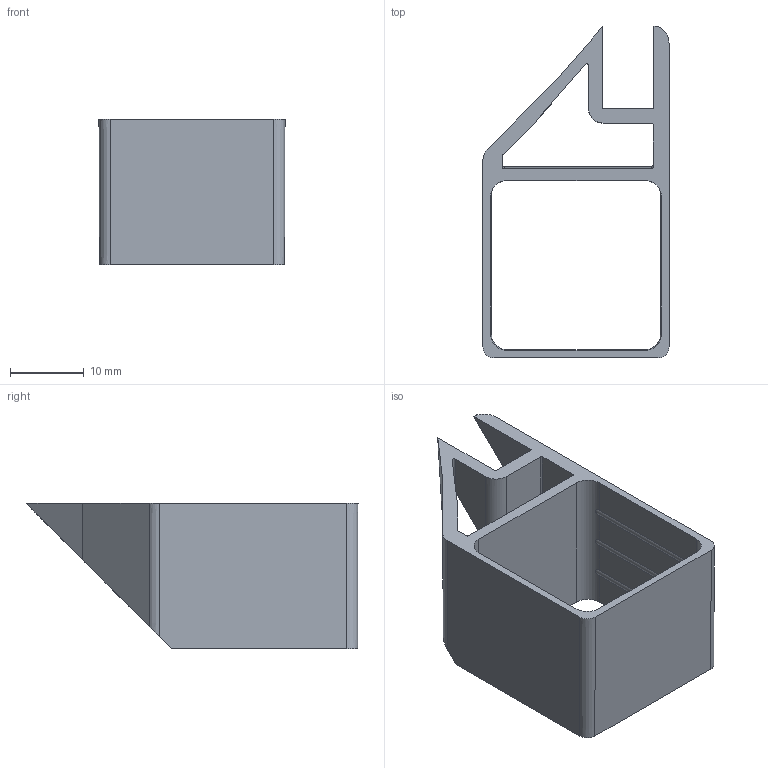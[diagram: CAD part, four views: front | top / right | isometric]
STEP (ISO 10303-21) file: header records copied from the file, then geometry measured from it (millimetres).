
FILE_DESCRIPTION (( 'STEP AP214' ), '1' );
FILE_NAME ('L15882A.step', '2024-12-03T16:20:45', ( '' ), ( '' ), 'SwSTEP 2.0', 'SolidWorks 2023', '' );
FILE_SCHEMA (( 'AUTOMOTIVE_DESIGN' ));
Length unit declared in the file: millimetre
Products named in the file (1): L15882A
Bounding box: 25.3 x 45.15 x 19.85 mm (x, y, z)
Volume: 3542.2 mm3; surface area: 5315.2 mm2
Topology: 1 solids, 1 shells, 66 faces, 168 edges, 104 vertices
Faces by surface type: plane 31, cylinder 25, bspline 6, cone 4
Entity records: 2137 total; most frequent: CARTESIAN_POINT 549, ORIENTED_EDGE 336, DIRECTION 316, EDGE_CURVE 168, VECTOR 110, LINE 110, VERTEX_POINT 104, AXIS2_PLACEMENT_3D 103
